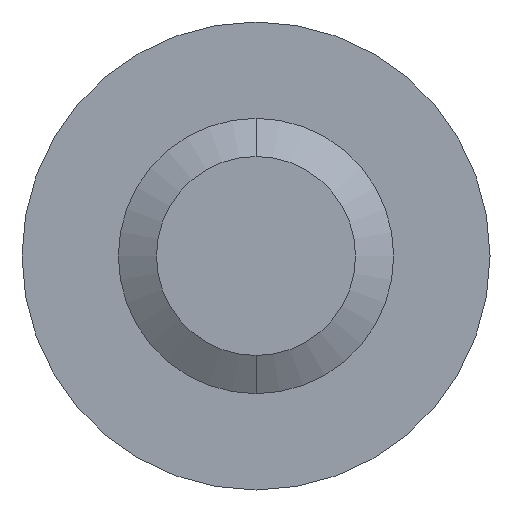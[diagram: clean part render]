
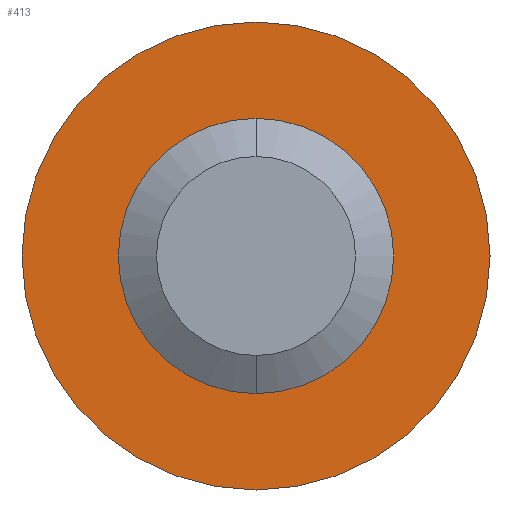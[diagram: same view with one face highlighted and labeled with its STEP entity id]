
A CAD part, front view. The second image highlights one B-rep face of the part: STEP entity #413.
In plain terms, the highlighted planar face has unit normal (0, -1, 0).
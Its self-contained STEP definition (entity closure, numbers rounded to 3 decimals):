
#10 = CARTESIAN_POINT ( 'NONE',  ( 0., 6., 0. ) ) ;
#15 = DIRECTION ( 'NONE',  ( 0., 1., 0. ) ) ;
#89 = AXIS2_PLACEMENT_3D ( 'NONE', #1034, #1366, #98 ) ;
#98 = DIRECTION ( 'NONE',  ( 0., 0., 1. ) ) ;
#154 = ORIENTED_EDGE ( 'NONE', *, *, #1268, .F. ) ;
#161 = VERTEX_POINT ( 'NONE', #457 ) ;
#219 = AXIS2_PLACEMENT_3D ( 'NONE', #10, #1166, #1436 ) ;
#236 = FACE_BOUND ( 'NONE', #970, .T. ) ;
#356 = ORIENTED_EDGE ( 'NONE', *, *, #765, .F. ) ;
#413 = ADVANCED_FACE ( 'NONE', ( #1285, #236 ), #712, .F. ) ;
#457 = CARTESIAN_POINT ( 'NONE',  ( 0., 6., 2.5 ) ) ;
#477 = EDGE_LOOP ( 'NONE', ( #154, #356 ) ) ;
#634 = AXIS2_PLACEMENT_3D ( 'NONE', #1259, #1009, #1494 ) ;
#703 = VERTEX_POINT ( 'NONE', #784 ) ;
#712 = PLANE ( 'NONE',  #857 ) ;
#725 = DIRECTION ( 'NONE',  ( 0., 0., 1. ) ) ;
#737 = AXIS2_PLACEMENT_3D ( 'NONE', #965, #1416, #725 ) ;
#740 = VERTEX_POINT ( 'NONE', #777 ) ;
#760 = EDGE_CURVE ( 'NONE', #161, #740, #1373, .T. ) ;
#765 = EDGE_CURVE ( 'NONE', #703, #831, #1428, .T. ) ;
#777 = CARTESIAN_POINT ( 'NONE',  ( 0., 6., -2.5 ) ) ;
#784 = CARTESIAN_POINT ( 'NONE',  ( 0., 6., 4.25 ) ) ;
#827 = CARTESIAN_POINT ( 'NONE',  ( 0., 6., -4.25 ) ) ;
#828 = CARTESIAN_POINT ( 'NONE',  ( 0., 6., 0. ) ) ;
#831 = VERTEX_POINT ( 'NONE', #827 ) ;
#857 = AXIS2_PLACEMENT_3D ( 'NONE', #828, #15, #1182 ) ;
#887 = CIRCLE ( 'NONE', #737, 4.25 ) ;
#965 = CARTESIAN_POINT ( 'NONE',  ( 0., 6., 0. ) ) ;
#970 = EDGE_LOOP ( 'NONE', ( #1310, #1474 ) ) ;
#1009 = DIRECTION ( 'NONE',  ( 0., 1., 0. ) ) ;
#1034 = CARTESIAN_POINT ( 'NONE',  ( 0., 6., 0. ) ) ;
#1055 = CIRCLE ( 'NONE', #219, 2.5 ) ;
#1166 = DIRECTION ( 'NONE',  ( 0., 1., 0. ) ) ;
#1182 = DIRECTION ( 'NONE',  ( 0., 0., 1. ) ) ;
#1259 = CARTESIAN_POINT ( 'NONE',  ( 0., 6., 0. ) ) ;
#1268 = EDGE_CURVE ( 'NONE', #831, #703, #887, .T. ) ;
#1285 = FACE_OUTER_BOUND ( 'NONE', #477, .T. ) ;
#1310 = ORIENTED_EDGE ( 'NONE', *, *, #760, .T. ) ;
#1314 = EDGE_CURVE ( 'NONE', #740, #161, #1055, .T. ) ;
#1366 = DIRECTION ( 'NONE',  ( 0., 1., 0. ) ) ;
#1373 = CIRCLE ( 'NONE', #634, 2.5 ) ;
#1416 = DIRECTION ( 'NONE',  ( 0., 1., 0. ) ) ;
#1428 = CIRCLE ( 'NONE', #89, 4.25 ) ;
#1436 = DIRECTION ( 'NONE',  ( 0., 0., 1. ) ) ;
#1474 = ORIENTED_EDGE ( 'NONE', *, *, #1314, .T. ) ;
#1494 = DIRECTION ( 'NONE',  ( 0., 0., 1. ) ) ;
